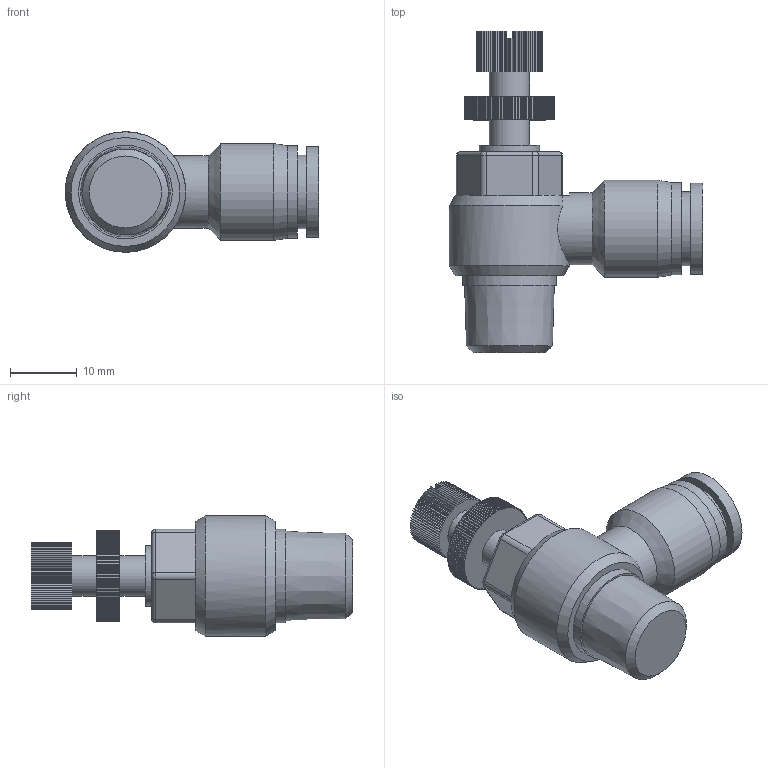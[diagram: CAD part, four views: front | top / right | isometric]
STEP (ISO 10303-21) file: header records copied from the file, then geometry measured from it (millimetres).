
FILE_DESCRIPTION((''),'2;1');
FILE_NAME('S:\UTecnico\ArchivioUT\Speciali Clienti\Speciali KONFIT\DISEGNI 3D\DP\DP 79\DP79KP1408.stp','2012-12-10T09:27:42',('UT5'),(''),'Autodesk Inventor 2012','Autodesk Inventor 2012','');
FILE_SCHEMA(('AUTOMOTIVE_DESIGN { 1 0 10303 214 1 1 1 1 }'));
Length unit declared in the file: millimetre
Products named in the file (1): DP79KP1408
Bounding box: 37.9 x 48 x 18 mm (x, y, z)
Volume: 8241.4 mm3; surface area: 4583.5 mm2
Topology: 1 solids, 1 shells, 520 faces, 1504 edges, 997 vertices
Faces by surface type: plane 385, cylinder 123, bspline 6, cone 6
Full cylindrical faces by diameter (mm): 6 x2, 8 x1, 9 x1, 10.8 x1, 11 x1, 13.6 x1, 13.8 x1, 14 x1, 14.5 x1, 18 x1
Entity records: 17122 total; most frequent: CARTESIAN_POINT 3228, ORIENTED_EDGE 2970, DIRECTION 2769, EDGE_CURVE 1485, VECTOR 1225, LINE 1225, VERTEX_POINT 994, AXIS2_PLACEMENT_3D 772
